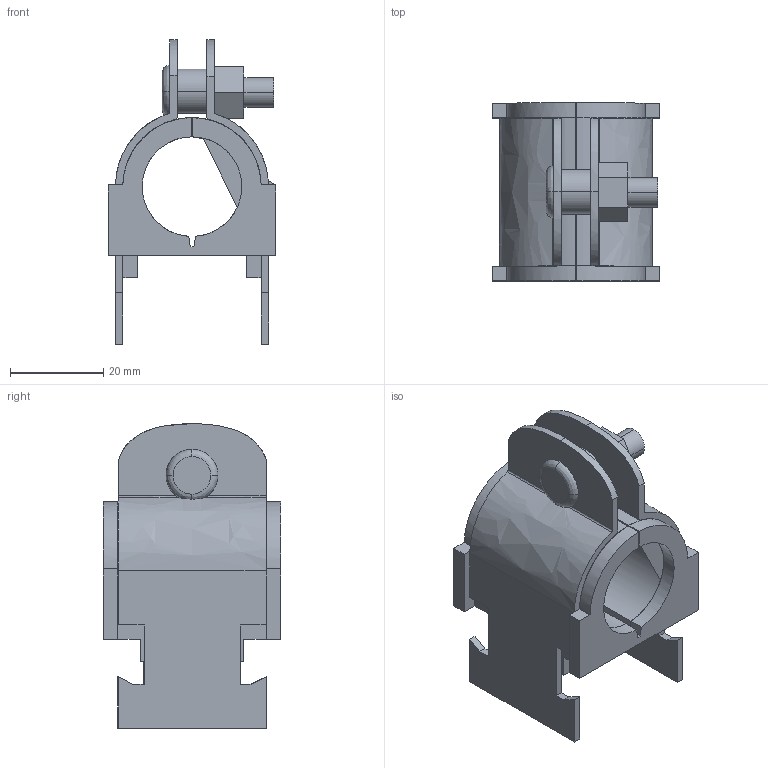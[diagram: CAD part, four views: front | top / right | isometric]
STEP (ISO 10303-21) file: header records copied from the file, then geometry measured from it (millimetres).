
FILE_DESCRIPTION(('TurboCAD Mac Pro'),'Build 980');
FILE_NAME('014N018.stp',' ',(''),(''),'ACIS Interop','IMSI','TurboCAD Mac Pro BY IMSI, INCORPORATED');
FILE_SCHEMA(('automotive_design'));
Length unit declared in the file: inch
Products named in the file (3): 1; 2; 3
Bounding box: 35.97 x 38.1 x 65.27 mm (x, y, z)
Volume: 25136.1 mm3; surface area: 18236.2 mm2
Topology: 3 solids, 3 shells, 153 faces, 420 edges, 271 vertices
Faces by surface type: plane 107, bspline 46
Entity records: 7507 total; most frequent: CARTESIAN_POINT 1871, ORIENTED_EDGE 840, DIRECTION 530, EDGE_CURVE 420, STYLED_ITEM 321, PRESENTATION_STYLE_ASSIGNMENT 321, COLOUR_RGB 321, LINE 302
